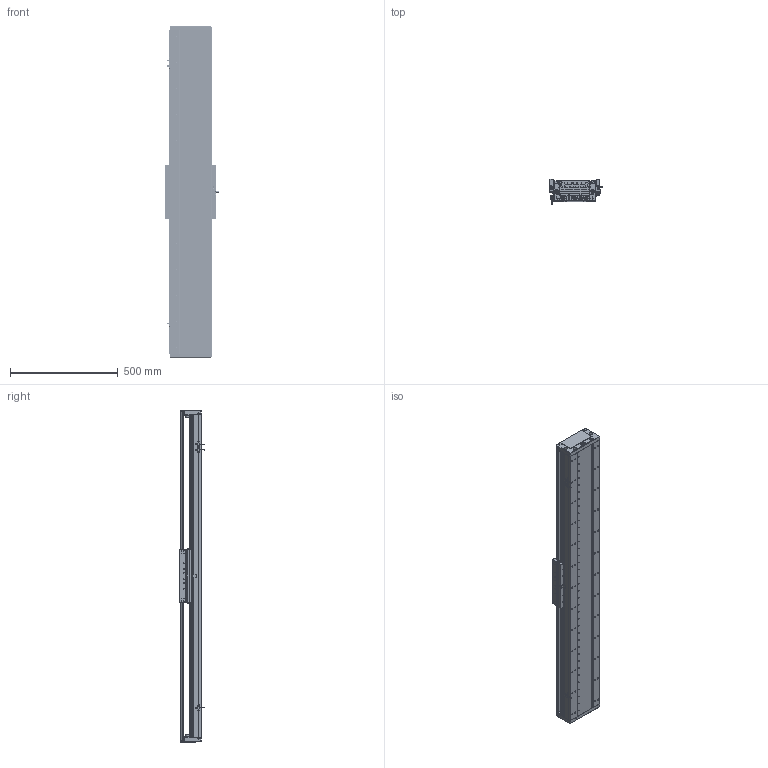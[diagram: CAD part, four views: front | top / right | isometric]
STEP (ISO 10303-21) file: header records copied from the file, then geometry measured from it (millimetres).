
FILE_DESCRIPTION (( 'STEP AP203' ), '1' );
FILE_NAME ('DA-C195-C3-T1200-C010-0.2 眻盄萇儂.STEP', '2025-08-15T01:39:35', ( '' ), ( '' ), 'SwSTEP 2.0', 'SolidWorks 2019', '' );
FILE_SCHEMA (( 'CONFIG_CONTROL_DESIGN' ));
Length unit declared in the file: millimetre
Products named in the file (12): CU195-C3賑輸-俋楷; DA95-HXJ-00 遣喳砎蝶; PM-T45ㄗ侂狟ㄘ; 66156-0001-003-00 裔啣; IU-CU195-L-00 菁釱(L1500); DA195-DG-H-00  端盖（压铸镂空版）; 葩璃 DA95-GT-T-00; IU-CU195-L 菁釱絳寢; MS200 棠掑喜S315-T240; LMT黍杅芛; DA-C195-C3-T1200-C010-0.2 眻盄萇儂; DA165-GYP-00 光电感应片(默认)
Assembly tree (20 placements, depth 3):
  DA-C195-C3-T1200-C010-0.2 眻盄萇儂
    IU-CU195-L 菁釱絳寢
      IU-CU195-L-00 菁釱(L1500)
      葩璃 DA95-GT-T-00  x4
    LMT黍杅芛
    MS200 棠掑喜S315-T240
    PM-T45ㄗ侂狟ㄘ  x3
    DA165-GYP-00 光电感应片(默认)
    DA195-DG-H-00  端盖（压铸镂空版）  x2
    DA95-HXJ-00 遣喳砎蝶  x4
    66156-0001-003-00 裔啣
    CU195-C3賑輸-俋楷
Bounding box: 248 x 115.6 x 1540 mm (x, y, z)
Volume: 10766320.9 mm3; surface area: 3061043.9 mm2
Topology: 78 solids, 118 shells, 5347 faces, 13936 edges, 8515 vertices
Faces by surface type: cylinder 2408, plane 1605, bspline 710, cone 544, torus 44, sphere 36
Entity records: 152047 total; most frequent: CARTESIAN_POINT 47997, ORIENTED_EDGE 21958, DIRECTION 20758, EDGE_CURVE 10979, AXIS2_PLACEMENT_3D 7731, VERTEX_POINT 6945, LINE 5296, VECTOR 5296
